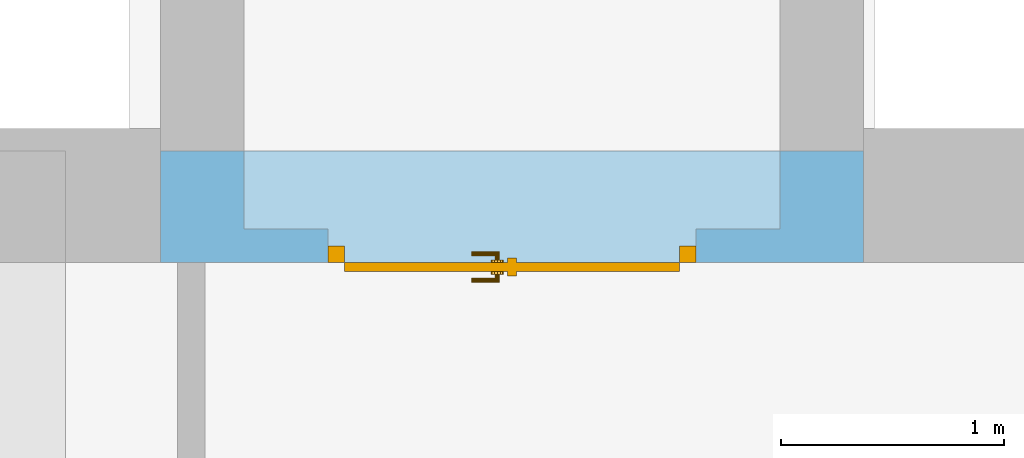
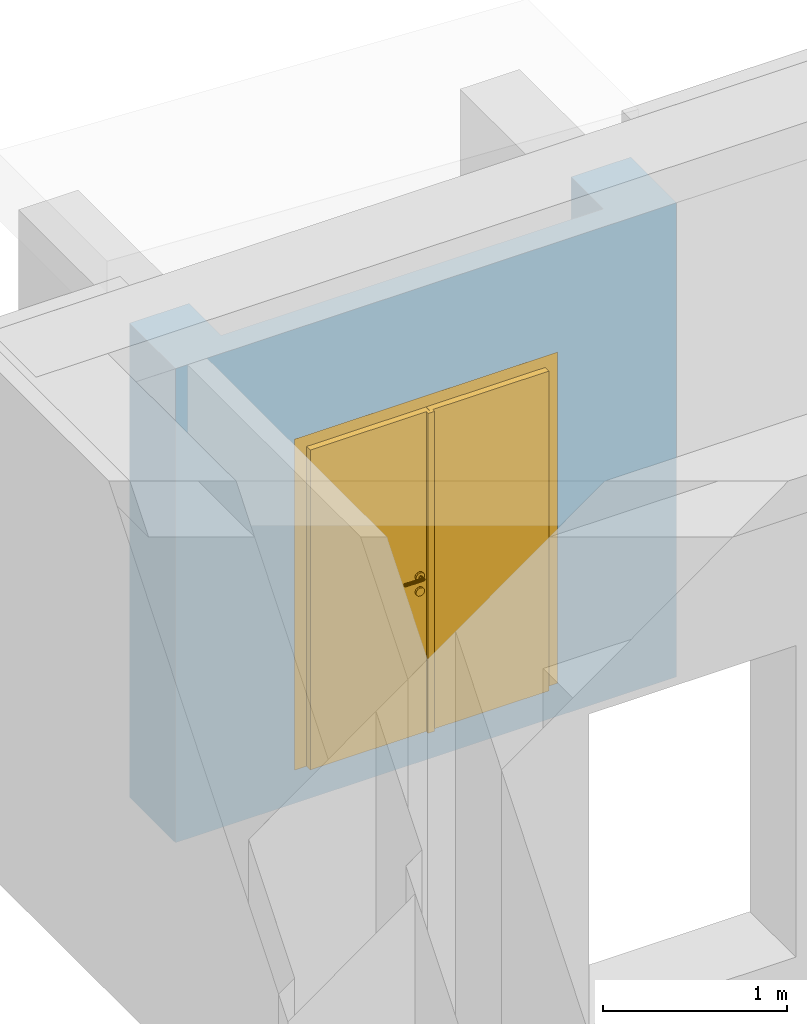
# One storey, part 14 of 27: 1 door, 1 opening, plus 1 element that does not belong to this part.
"""IFC4 building model written with IfcOpenShell, lengths in metres."""

from ifc_helpers import new_model, entity, si_unit, converted_unit, derived_unit, frame, frame_2d, origin, origin_with_axes, place, context, subcontext, project, spatial, polyline, rectangle, outline, extrude, clip, bounded_halfspace, closed_shell, open_shell, surface_model, source, transform, mapped, material, layer, layer_set, layer_usage, type_object, element, fill, save


model = new_model("IFC4")

# Units and contexts
model_context = context("Model", 3, precision=1e-05, world=origin())
body_context = subcontext(model_context, "Body", "Model", "MODEL_VIEW")
ifc_project = project(units=[si_unit("LENGTHUNIT", "METRE"), si_unit("AREAUNIT", "SQUARE_METRE"), si_unit("VOLUMEUNIT", "CUBIC_METRE"), si_unit("MASSUNIT", "GRAM", prefix="KILO"), converted_unit("PLANEANGLEUNIT", "DEGREE", entity("IfcPlaneAngleMeasure", 0.0174532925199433), si_unit("PLANEANGLEUNIT", "RADIAN"), dimensions=[0, 0, 0, 0, 0, 0, 0]), derived_unit("THERMALTRANSMITTANCEUNIT", [(si_unit("POWERUNIT", "WATT"), 1), (si_unit("THERMODYNAMICTEMPERATUREUNIT", "KELVIN"), -1), (si_unit("LENGTHUNIT", "METRE"), -2)]), derived_unit("VOLUMETRICFLOWRATEUNIT", [(si_unit("LENGTHUNIT", "METRE"), 3), (converted_unit("TIMEUNIT", "hour", entity("IfcTimeMeasure", 3600.0), si_unit("TIMEUNIT", "SECOND"), dimensions=[0, 0, 1, 0, 0, 0, 0]), -1), (si_unit("LENGTHUNIT", "METRE"), -1)])], contexts=[model_context])

# Site, building, storey
site_placement = place(None, origin())
site = spatial("IfcSite", under=ifc_project, at=site_placement, Name="3. ASŘ", CompositionType="ELEMENT")
building_placement = place(site_placement, origin())
building = spatial("IfcBuilding", under=site, at=building_placement, Name="Pavilon C", CompositionType="ELEMENT")
storey_placement = place(building_placement, frame((0.0, 0.0, 7.2)))
storey = spatial("IfcBuildingStorey", under=building, at=storey_placement, Name="Půdorys 3.NP", CompositionType="ELEMENT", Elevation=7.2)

# Wall, opening, door
ifc_material = material(Name="ZDIVO Z CDm")
ifc_layer = layer(ifc_material, 0.5)
ifc_layer_set = layer_set([ifc_layer])
ifc_layer_usage = layer_usage(ifc_layer_set, "AXIS2", "POSITIVE", 0.0)
wall_placement = place(storey_placement, frame((-6.29999999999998, 10.85, -0.52), z_axis=(0.0, 0.0, 1.0), x_axis=(-1.0, 0.0, 0.0)))
wall = element("IfcWall", 1, at=wall_placement, inside=storey, material=ifc_layer_usage, Name="ZDIVO Z CDm", context=body_context, shape_type="Clipping", body=[
    clip(clip(clip(extrude(rectangle(XDim=3.15, YDim=0.5, at=frame_2d((1.575, 0.25), x_axis=(1.0, 0.0))), origin_with_axes(), (0.0, 0.0, 1.0), 3.15), bounded_halfspace(frame((0.562500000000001, 0.175, 0.219999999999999), z_axis=(0.0, 0.0, -1.0), x_axis=(1.0, 0.0, 0.0)), True, origin_with_axes(), polyline([(0.375000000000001, 0.0), (0.750000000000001, 0.0), (0.750000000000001, 0.35), (0.375000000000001, 0.35), (0.375000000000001, 0.0)]))), bounded_halfspace(frame((1.575, 0.175, 2.42), z_axis=(5.51208910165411e-16, 2.5985562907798e-15, -1.0), x_axis=(2.59855629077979e-15, -1.0, -5.19711258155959e-15)), True, origin_with_axes(), polyline([(0.75, 0.35), (0.750000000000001, 0.0), (2.4, 0.0), (2.4, 0.35), (0.75, 0.35)]))), bounded_halfspace(frame((2.5875, 0.175, 0.219999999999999), z_axis=(0.0, 0.0, -1.0), x_axis=(-1.0, 0.0, 0.0)), True, origin_with_axes(), polyline([(2.775, 0.35), (2.4, 0.35), (2.4, 0.0), (2.775, 0.0), (2.775, 0.35)]))),
])
opening_placement = place(wall_placement, frame((2.4, 0.5, 0.22), z_axis=(0.0, -1.0, 0.0), x_axis=(0.0, 0.0, 1.0)))
opening = element("IfcOpeningElement", 2, at=opening_placement, cuts=wall, Name="Dveřní otvor", ObjectType="Opening", context=body_context, shape_type="SweptSolid", body=[
    extrude(outline(polyline([(0.0, 1.65), (2.2, 1.65), (2.2, 0.0), (0.0, 0.0), (0.0, 1.65)])), origin_with_axes(), (0.0, 0.0, 1.0), 0.5),
])
door_type = type_object("IfcDoorType", Name="DH501", OperationType="NOTDEFINED", ParameterTakesPrecedence=False, PredefinedType="DOOR")
shared_shape = source(origin_with_axes(), body_context, "Body", "SurfaceModel", [
    surface_model("IfcShellBasedSurfaceModel", [(0.0, 0.0750000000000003, 2.2), (0.0, 0.075, -4.59242549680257e-18), (0.075, 0.075, -4.59242549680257e-18), (0.075, 0.0750000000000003, 2.2), (0.0, 0.0, 4.59242549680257e-18), (0.0, 2.70006239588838e-16, 2.2), (0.075, 2.70006239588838e-16, 2.2), (0.075, 0.0, 4.59242549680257e-18)], [closed_shell([[[0, 1, 2, 3]], [[4, 5, 6, 7]], [[1, 0, 5, 4]], [[2, 1, 4, 7]], [[3, 2, 7, 6]], [[0, 3, 6, 5]]], orient=[[False], [False], [False], [False], [False], [False]])]),
    surface_model("IfcShellBasedSurfaceModel", [(1.575, 0.0750000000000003, 2.2), (1.575, 0.075, -4.59242549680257e-18), (1.65, 0.075, -4.59242549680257e-18), (1.65, 0.0750000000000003, 2.2), (1.575, 0.0, 4.59242549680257e-18), (1.575, 2.70006239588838e-16, 2.2), (1.65, 2.70006239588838e-16, 2.2), (1.65, 0.0, 4.59242549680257e-18)], [closed_shell([[[0, 1, 2, 3]], [[4, 5, 6, 7]], [[1, 0, 5, 4]], [[2, 1, 4, 7]], [[3, 2, 7, 6]], [[0, 3, 6, 5]]], orient=[[False], [False], [False], [False], [False], [False]])]),
    surface_model("IfcShellBasedSurfaceModel", [(0.075, 0.0750000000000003, 2.2), (0.075, 0.0750000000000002, 2.125), (1.575, 0.0750000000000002, 2.125), (1.575, 0.0750000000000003, 2.2), (0.075, 2.55795384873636e-16, 2.125), (0.075, 2.70006239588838e-16, 2.2), (1.575, 2.70006239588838e-16, 2.2), (1.575, 2.55795384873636e-16, 2.125)], [closed_shell([[[0, 1, 2, 3]], [[4, 5, 6, 7]], [[1, 0, 5, 4]], [[2, 1, 4, 7]], [[3, 2, 7, 6]], [[0, 3, 6, 5]]], orient=[[False], [False], [False], [False], [False], [False]])]),
    surface_model("IfcShellBasedSurfaceModel", [(0.075, 0.115, 2.125), (0.075, 0.115, -9.49101269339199e-18), (0.8245, 0.115, -9.49101269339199e-18), (0.8245, 0.115, 2.125), (0.075, 0.075, -4.59242549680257e-18), (0.075, 0.0750000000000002, 2.125), (0.8245, 0.0750000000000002, 2.125), (0.8245, 0.075, -4.59242549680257e-18)], [closed_shell([[[0, 1, 2, 3]], [[4, 5, 6, 7]], [[1, 0, 5, 4]], [[2, 1, 4, 7]], [[3, 2, 7, 6]], [[0, 3, 6, 5]]], orient=[[False], [False], [False], [False], [False], [False]])]),
    surface_model("IfcShellBasedSurfaceModel", [(0.8045, 0.115, 2.125), (0.8445, 0.115, 2.125), (0.8445, 0.115, -9.49101269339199e-18), (0.8045, 0.115, -9.49101269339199e-18), (0.8045, 0.135, -1.19403062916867e-17), (0.8445, 0.135, -1.19403062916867e-17), (0.8445, 0.135, 2.125), (0.8045, 0.135, 2.125)], [closed_shell([[[0, 1, 2, 3]], [[4, 5, 6, 7]], [[3, 4, 7, 0]], [[2, 5, 4, 3]], [[1, 6, 5, 2]], [[0, 7, 6, 1]]], orient=[[False], [False], [False], [False], [False], [False]])]),
    surface_model("IfcShellBasedSurfaceModel", [(0.783315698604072, 0.0750000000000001, 0.93625), (0.787, 0.0750000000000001, 0.95), (0.783315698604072, 0.0750000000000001, 0.96375), (0.77325, 0.0750000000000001, 0.973815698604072), (0.7595, 0.0750000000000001, 0.9775), (0.74575, 0.0750000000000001, 0.973815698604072), (0.735684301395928, 0.0750000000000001, 0.96375), (0.732, 0.0750000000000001, 0.95), (0.735684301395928, 0.0750000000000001, 0.93625), (0.74575, 0.0750000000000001, 0.926184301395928), (0.7595, 0.0750000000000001, 0.9225), (0.77325, 0.0750000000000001, 0.926184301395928), (0.787, 0.0625000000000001, 0.95), (0.783315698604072, 0.0625000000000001, 0.93625), (0.77325, 0.0625000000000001, 0.926184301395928), (0.7595, 0.0625000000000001, 0.9225), (0.74575, 0.0625000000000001, 0.926184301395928), (0.735684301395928, 0.0625000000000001, 0.93625), (0.732, 0.0625000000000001, 0.95), (0.735684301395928, 0.0625000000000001, 0.96375), (0.74575, 0.0625000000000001, 0.973815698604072), (0.7595, 0.0625000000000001, 0.9775), (0.77325, 0.0625000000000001, 0.973815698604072), (0.783315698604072, 0.0625000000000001, 0.96375)], [closed_shell([[[0, 1, 2, 3, 4, 5, 6, 7, 8, 9, 10, 11]], [[12, 13, 14, 15, 16, 17, 18, 19, 20, 21, 22, 23]], [[1, 0, 13, 12]], [[2, 1, 12, 23]], [[3, 2, 23, 22]], [[4, 3, 22, 21]], [[5, 4, 21, 20]], [[6, 5, 20, 19]], [[7, 6, 19, 18]], [[8, 7, 18, 17]], [[9, 8, 17, 16]], [[10, 9, 16, 15]], [[11, 10, 15, 14]], [[0, 11, 14, 13]]], orient=[[False], [False], [False], [False], [False], [False], [False], [False], [False], [False], [False], [False], [False], [False]])]),
    surface_model("IfcShellBasedSurfaceModel", [(0.783315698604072, 0.0750000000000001, 1.03625), (0.787, 0.0750000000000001, 1.05), (0.783315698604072, 0.0750000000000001, 1.06375), (0.77325, 0.0750000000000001, 1.07381569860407), (0.7595, 0.0750000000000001, 1.0775), (0.74575, 0.0750000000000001, 1.07381569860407), (0.735684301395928, 0.0750000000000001, 1.06375), (0.732, 0.0750000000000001, 1.05), (0.735684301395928, 0.0750000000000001, 1.03625), (0.74575, 0.0750000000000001, 1.02618430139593), (0.7595, 0.0750000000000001, 1.0225), (0.77325, 0.0750000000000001, 1.02618430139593), (0.787, 0.0625000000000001, 1.05), (0.783315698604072, 0.0625000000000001, 1.03625), (0.77325, 0.0625000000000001, 1.02618430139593), (0.7595, 0.0625000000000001, 1.0225), (0.74575, 0.0625000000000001, 1.02618430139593), (0.735684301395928, 0.0625000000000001, 1.03625), (0.732, 0.0625000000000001, 1.05), (0.735684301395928, 0.0625000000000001, 1.06375), (0.74575, 0.0625000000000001, 1.07381569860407), (0.7595, 0.0625000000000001, 1.0775), (0.77325, 0.0625000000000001, 1.07381569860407), (0.783315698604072, 0.0625000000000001, 1.06375)], [closed_shell([[[0, 1, 2, 3, 4, 5, 6, 7, 8, 9, 10, 11]], [[12, 13, 14, 15, 16, 17, 18, 19, 20, 21, 22, 23]], [[1, 0, 13, 12]], [[2, 1, 12, 23]], [[3, 2, 23, 22]], [[4, 3, 22, 21]], [[5, 4, 21, 20]], [[6, 5, 20, 19]], [[7, 6, 19, 18]], [[8, 7, 18, 17]], [[9, 8, 17, 16]], [[10, 9, 16, 15]], [[11, 10, 15, 14]], [[0, 11, 14, 13]]], orient=[[False], [False], [False], [False], [False], [False], [False], [False], [False], [False], [False], [False], [False], [False]])]),
    surface_model("IfcShellBasedSurfaceModel", [(0.7595, 0.0750000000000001, 1.06), (0.7545, 0.0750000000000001, 1.05866025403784), (0.750839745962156, 0.0750000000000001, 1.055), (0.7495, 0.0750000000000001, 1.05), (0.750839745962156, 0.0750000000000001, 1.045), (0.7545, 0.0750000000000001, 1.04133974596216), (0.7595, 0.0750000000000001, 1.04), (0.7645, 0.0750000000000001, 1.04133974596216), (0.768160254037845, 0.0750000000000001, 1.045), (0.7695, 0.0750000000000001, 1.05), (0.768160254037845, 0.0750000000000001, 1.055), (0.7645, 0.0750000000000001, 1.05866025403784), (0.7645, 0.0300000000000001, 1.05866025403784), (0.7595, 0.0350000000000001, 1.06), (0.768160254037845, 0.0263397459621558, 1.055), (0.7695, 0.0250000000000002, 1.05), (0.768160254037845, 0.0263397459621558, 1.045), (0.7645, 0.0300000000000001, 1.04133974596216), (0.7595, 0.0350000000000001, 1.04), (0.7545, 0.0400000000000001, 1.04133974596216), (0.750839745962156, 0.0436602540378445, 1.045), (0.7495, 0.0450000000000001, 1.05), (0.750839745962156, 0.0436602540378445, 1.055), (0.7545, 0.0400000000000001, 1.05866025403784), (0.6445, 0.0300000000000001, 1.05866025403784), (0.6445, 0.0350000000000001, 1.06), (0.6445, 0.0263397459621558, 1.055), (0.6445, 0.0250000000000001, 1.05), (0.6445, 0.0263397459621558, 1.045), (0.6445, 0.0300000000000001, 1.04133974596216), (0.6445, 0.0350000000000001, 1.04), (0.6445, 0.0400000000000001, 1.04133974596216), (0.6445, 0.0436602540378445, 1.045), (0.6445, 0.0450000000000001, 1.05), (0.6445, 0.0436602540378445, 1.055), (0.6445, 0.0400000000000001, 1.05866025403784)], [open_shell([[[0, 1, 2, 3, 4, 5, 6, 7, 8, 9, 10, 11]], [[0, 11, 12, 13]], [[11, 10, 14, 12]], [[10, 9, 15, 14]], [[9, 8, 16, 15]], [[8, 7, 17, 16]], [[7, 6, 18, 17]], [[6, 5, 19, 18]], [[5, 4, 20, 19]], [[4, 3, 21, 20]], [[3, 2, 22, 21]], [[2, 1, 23, 22]], [[1, 0, 13, 23]], [[13, 12, 24, 25]], [[12, 14, 26, 24]], [[14, 15, 27, 26]], [[15, 16, 28, 27]], [[16, 17, 29, 28]], [[17, 18, 30, 29]], [[18, 19, 31, 30]], [[19, 20, 32, 31]], [[20, 21, 33, 32]], [[21, 22, 34, 33]], [[22, 23, 35, 34]], [[23, 13, 25, 35]]], orient=[[False], [False], [False], [False], [False], [False], [False], [False], [False], [False], [False], [False], [False], [False], [False], [False], [False], [False], [False], [False], [False], [False], [False], [False], [False]])]),
    surface_model("IfcShellBasedSurfaceModel", [(0.783315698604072, 0.115, 0.93625), (0.77325, 0.115, 0.926184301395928), (0.7595, 0.115, 0.9225), (0.74575, 0.115, 0.926184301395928), (0.735684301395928, 0.115, 0.93625), (0.732, 0.115, 0.95), (0.735684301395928, 0.115, 0.96375), (0.74575, 0.115, 0.973815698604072), (0.7595, 0.115, 0.9775), (0.77325, 0.115, 0.973815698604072), (0.783315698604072, 0.115, 0.96375), (0.787, 0.115, 0.95), (0.787, 0.1275, 0.95), (0.783315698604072, 0.1275, 0.96375), (0.77325, 0.1275, 0.973815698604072), (0.7595, 0.1275, 0.9775), (0.74575, 0.1275, 0.973815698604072), (0.735684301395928, 0.1275, 0.96375), (0.732, 0.1275, 0.95), (0.735684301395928, 0.1275, 0.93625), (0.74575, 0.1275, 0.926184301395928), (0.7595, 0.1275, 0.9225), (0.77325, 0.1275, 0.926184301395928), (0.783315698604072, 0.1275, 0.93625)], [closed_shell([[[0, 1, 2, 3, 4, 5, 6, 7, 8, 9, 10, 11]], [[12, 13, 14, 15, 16, 17, 18, 19, 20, 21, 22, 23]], [[11, 12, 23, 0]], [[10, 13, 12, 11]], [[9, 14, 13, 10]], [[8, 15, 14, 9]], [[7, 16, 15, 8]], [[6, 17, 16, 7]], [[5, 18, 17, 6]], [[4, 19, 18, 5]], [[3, 20, 19, 4]], [[2, 21, 20, 3]], [[1, 22, 21, 2]], [[0, 23, 22, 1]]], orient=[[False], [False], [False], [False], [False], [False], [False], [False], [False], [False], [False], [False], [False], [False]])]),
    surface_model("IfcShellBasedSurfaceModel", [(0.783315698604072, 0.115, 1.03625), (0.77325, 0.115, 1.02618430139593), (0.7595, 0.115, 1.0225), (0.74575, 0.115, 1.02618430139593), (0.735684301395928, 0.115, 1.03625), (0.732, 0.115, 1.05), (0.735684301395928, 0.115, 1.06375), (0.74575, 0.115, 1.07381569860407), (0.7595, 0.115, 1.0775), (0.77325, 0.115, 1.07381569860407), (0.783315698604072, 0.115, 1.06375), (0.787, 0.115, 1.05), (0.787, 0.1275, 1.05), (0.783315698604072, 0.1275, 1.06375), (0.77325, 0.1275, 1.07381569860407), (0.7595, 0.1275, 1.0775), (0.74575, 0.1275, 1.07381569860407), (0.735684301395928, 0.1275, 1.06375), (0.732, 0.1275, 1.05), (0.735684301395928, 0.1275, 1.03625), (0.74575, 0.1275, 1.02618430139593), (0.7595, 0.1275, 1.0225), (0.77325, 0.1275, 1.02618430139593), (0.783315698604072, 0.1275, 1.03625)], [closed_shell([[[0, 1, 2, 3, 4, 5, 6, 7, 8, 9, 10, 11]], [[12, 13, 14, 15, 16, 17, 18, 19, 20, 21, 22, 23]], [[11, 12, 23, 0]], [[10, 13, 12, 11]], [[9, 14, 13, 10]], [[8, 15, 14, 9]], [[7, 16, 15, 8]], [[6, 17, 16, 7]], [[5, 18, 17, 6]], [[4, 19, 18, 5]], [[3, 20, 19, 4]], [[2, 21, 20, 3]], [[1, 22, 21, 2]], [[0, 23, 22, 1]]], orient=[[False], [False], [False], [False], [False], [False], [False], [False], [False], [False], [False], [False], [False], [False]])]),
    surface_model("IfcShellBasedSurfaceModel", [(0.7595, 0.115, 1.06), (0.7645, 0.115, 1.05866025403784), (0.768160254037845, 0.115, 1.055), (0.7695, 0.115, 1.05), (0.768160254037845, 0.115, 1.045), (0.7645, 0.115, 1.04133974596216), (0.7595, 0.115, 1.04), (0.7545, 0.115, 1.04133974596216), (0.750839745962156, 0.115, 1.045), (0.7495, 0.115, 1.05), (0.750839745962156, 0.115, 1.055), (0.7545, 0.115, 1.05866025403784), (0.7595, 0.155, 1.06), (0.7645, 0.16, 1.05866025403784), (0.768160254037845, 0.163660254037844, 1.055), (0.7695, 0.165, 1.05), (0.768160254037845, 0.163660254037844, 1.045), (0.7645, 0.16, 1.04133974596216), (0.7595, 0.155, 1.04), (0.7545, 0.15, 1.04133974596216), (0.750839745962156, 0.146339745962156, 1.045), (0.7495, 0.145, 1.05), (0.750839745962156, 0.146339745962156, 1.055), (0.7545, 0.15, 1.05866025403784), (0.6445, 0.155, 1.06), (0.6445, 0.16, 1.05866025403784), (0.6445, 0.163660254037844, 1.055), (0.6445, 0.165, 1.05), (0.6445, 0.163660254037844, 1.045), (0.6445, 0.16, 1.04133974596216), (0.6445, 0.155, 1.04), (0.6445, 0.15, 1.04133974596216), (0.6445, 0.146339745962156, 1.045), (0.6445, 0.145, 1.05), (0.6445, 0.146339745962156, 1.055), (0.6445, 0.15, 1.05866025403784)], [open_shell([[[0, 1, 2, 3, 4, 5, 6, 7, 8, 9, 10, 11]], [[0, 12, 13, 1]], [[1, 13, 14, 2]], [[2, 14, 15, 3]], [[3, 15, 16, 4]], [[4, 16, 17, 5]], [[5, 17, 18, 6]], [[6, 18, 19, 7]], [[7, 19, 20, 8]], [[8, 20, 21, 9]], [[9, 21, 22, 10]], [[10, 22, 23, 11]], [[11, 23, 12, 0]], [[12, 24, 25, 13]], [[13, 25, 26, 14]], [[14, 26, 27, 15]], [[15, 27, 28, 16]], [[16, 28, 29, 17]], [[17, 29, 30, 18]], [[18, 30, 31, 19]], [[19, 31, 32, 20]], [[20, 32, 33, 21]], [[21, 33, 34, 22]], [[22, 34, 35, 23]], [[23, 35, 24, 12]]], orient=[[False], [False], [False], [False], [False], [False], [False], [False], [False], [False], [False], [False], [False], [False], [False], [False], [False], [False], [False], [False], [False], [False], [False], [False], [False]])]),
    surface_model("IfcShellBasedSurfaceModel", [(0.8255, 0.115, 2.125), (0.8255, 0.115, -9.49101269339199e-18), (1.575, 0.115, -9.49101269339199e-18), (1.575, 0.115, 2.125), (0.8255, 0.075, -4.59242549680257e-18), (0.8255, 0.0750000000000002, 2.125), (1.575, 0.0750000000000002, 2.125), (1.575, 0.075, -4.59242549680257e-18)], [closed_shell([[[0, 1, 2, 3]], [[4, 5, 6, 7]], [[1, 0, 5, 4]], [[2, 1, 4, 7]], [[3, 2, 7, 6]], [[0, 3, 6, 5]]], orient=[[False], [False], [False], [False], [False], [False]])]),
    surface_model("IfcShellBasedSurfaceModel", [(0.8055, 0.0750000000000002, 2.125), (0.8055, 0.075, -4.59242549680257e-18), (0.8455, 0.075, -4.59242549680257e-18), (0.8455, 0.0750000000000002, 2.125), (0.8055, 0.055, -2.14313189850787e-18), (0.8055, 0.0550000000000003, 2.125), (0.8455, 0.0550000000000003, 2.125), (0.8455, 0.055, -2.14313189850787e-18)], [closed_shell([[[0, 1, 2, 3]], [[4, 5, 6, 7]], [[1, 0, 5, 4]], [[2, 1, 4, 7]], [[3, 2, 7, 6]], [[0, 3, 6, 5]]], orient=[[False], [False], [False], [False], [False], [False]])]),
])
door_placement = place(opening_placement, frame((0.0, 0.0, 0.075), z_axis=(1.0, 0.0, 0.0), x_axis=(0.0, 1.0, -1.22464679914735e-16)))
door = element("IfcDoor", 3, at=door_placement, inside=storey, type_object=door_type, Name="DH501", OverallHeight=2.2, OverallWidth=1.65, context=body_context, shape_type="MappedRepresentation", body=[
    mapped(shared_shape, transform((0.0, 0.0, 0.0), x_axis=(1.0, 0.0, 0.0), y_axis=(0.0, -1.0, 0.0), z_axis=(0.0, 0.0, 1.0), scale=1.0)),
])
fill(opening, door)

save(model, "model.ifc")
